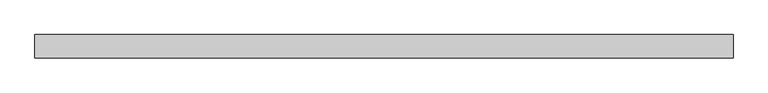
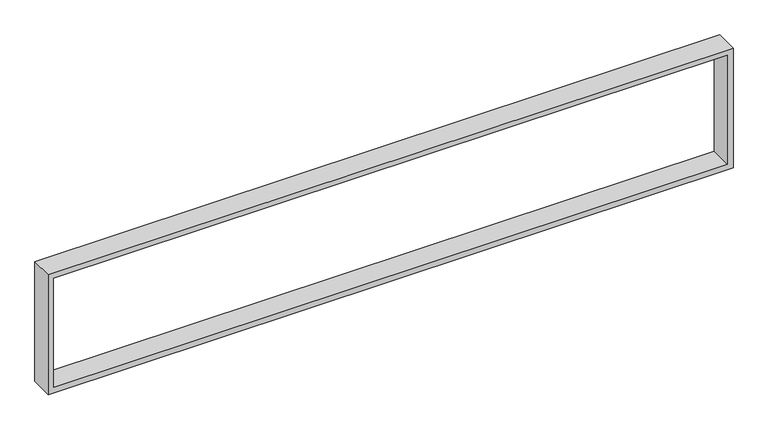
"""IFC4 building model written with IfcOpenShell, lengths in millimetres: proxy geometry, Moldura Janelas Câmara : Moldura Janelas Câmara."""

from ifc_helpers import new_model, si_unit, frame, origin, place, context, project, spatial, polyline, outline, extrude, source, transform, mapped, element, save


def generic_models_4572489e(model_context):
    return source(origin(), model_context, "Body", "SweptSolid", [
        extrude(outline(polyline([(3150.0, 5750.3673655), (3150.0, -199.6326345), (2050.0, -199.6326345), (2050.0, 5750.3673655), (3150.0, 5750.3673655)]), holes=[polyline([(2100.0, 5700.3673655), (2100.0, -149.6326345), (3100.0, -149.6326345), (3100.0, 5700.3673655), (2100.0, 5700.3673655)])]), frame((0.0, -8241.1116245, 0.0), z_axis=(0.0, 1.0, 0.0), x_axis=(0.0, 0.0, 1.0)), (0.0, 0.0, 1.0), 200.0),
    ])


if __name__ == "__main__":
    model = new_model("IFC4")
    model_context = context("Model", 3, world=origin())
    ifc_project = project(units=[si_unit("LENGTHUNIT", "METRE", prefix="MILLI")], contexts=[model_context])
    site = spatial("IfcSite", under=ifc_project)
    building = spatial("IfcBuilding", under=site)
    placement = place(None, origin())
    generic_models_shape = generic_models_4572489e(model_context)
    element("IfcBuildingElementProxy", 1, Name="Moldura Janelas Câmara : Moldura Janelas Câmara", ObjectType="Moldura Janelas Câmara : Moldura Janelas Câmara", at=placement, inside=building, context=model_context, shape_type="MappedRepresentation", body=[
        mapped(generic_models_shape, transform((0.0, 0.0, 0.0), x_axis=(1.0, 0.0, 0.0), y_axis=(0.0, 1.0, 0.0), z_axis=(0.0, 0.0, 1.0))),
    ])
    save(model, "model.ifc")
